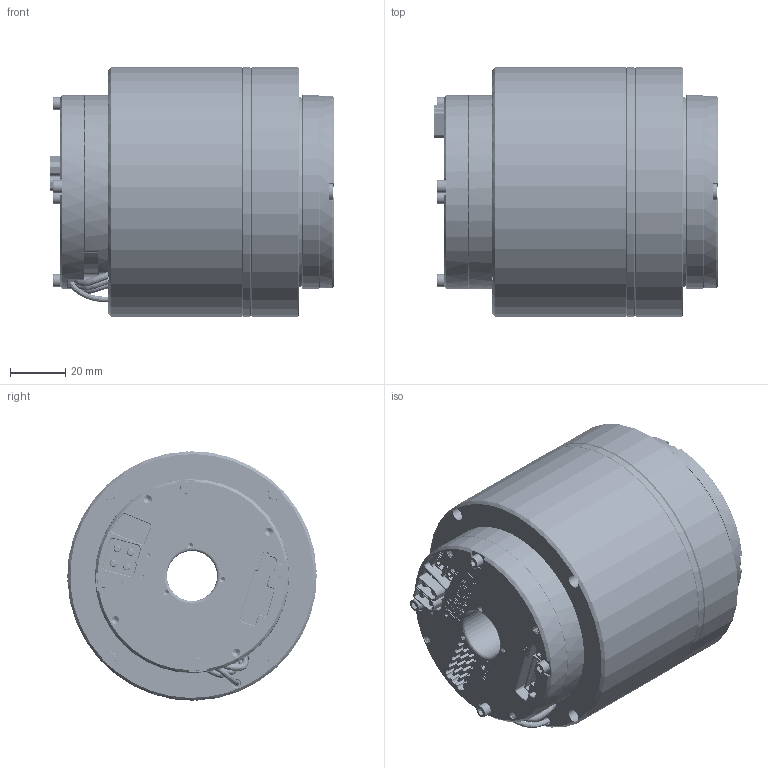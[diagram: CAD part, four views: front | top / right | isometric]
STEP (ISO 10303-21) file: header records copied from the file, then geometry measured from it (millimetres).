
FILE_DESCRIPTION (( 'STEP AP203' ), '1' );
FILE_NAME ('eRob90H｡ﾁ｡ﾁI-XX-18CX_V3_MC2A.BX.XX.step', '2024-04-11T01:22:19', ( 'Windows User' ), ( 'P R C' ), 'SwSTEP 2.0', 'SolidWorks 2021', '' );
FILE_SCHEMA (( 'CONFIG_CONTROL_DESIGN' ));
Length unit declared in the file: millimetre
Products named in the file (1): eRob90H××I-XX-18CX_V3_MC2A.BX.XX
Bounding box: 102.3 x 90 x 90 mm (x, y, z)
Volume: 512020.5 mm3; surface area: 59038.8 mm2
Topology: 1 solids, 1 shells, 4076 faces, 11118 edges, 7266 vertices
Faces by surface type: plane 1968, cylinder 1506, bspline 422, cone 127, torus 53
Entity records: 324022 total; most frequent: CARTESIAN_POINT 229129, ORIENTED_EDGE 22112, DIRECTION 16740, EDGE_CURVE 11056, VERTEX_POINT 7266, LINE 6714, VECTOR 6714, AXIS2_PLACEMENT_3D 5013
